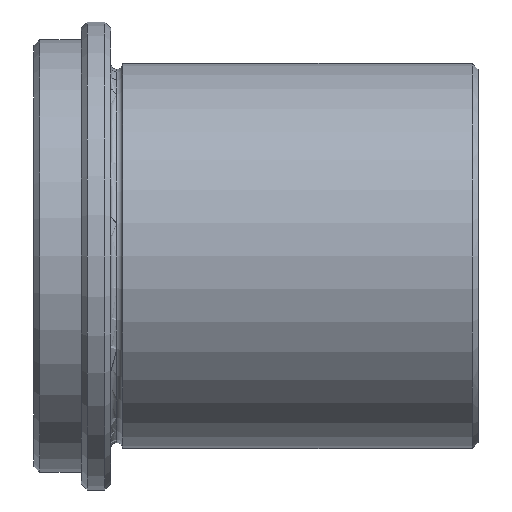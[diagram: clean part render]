
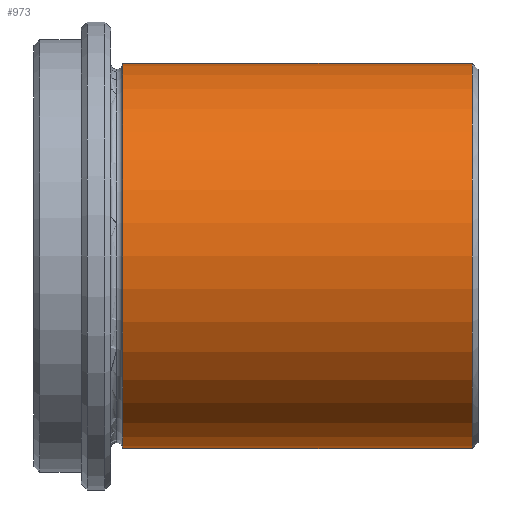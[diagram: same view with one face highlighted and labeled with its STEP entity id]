
A CAD part, left-side view. The second image highlights one B-rep face of the part: STEP entity #973.
In plain terms, the highlighted cylindrical face has radius 32.5 mm (diameter 65 mm), a partial arc.
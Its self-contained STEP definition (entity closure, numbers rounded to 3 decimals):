
#789=CARTESIAN_POINT('Vertex',(0.,60.,32.5)) ;
#796=CARTESIAN_POINT('Vertex',(0.,60.,-32.5)) ;
#822=CARTESIAN_POINT('Axis2P3D Location',(0.,60.,0.)) ;
#826=CARTESIAN_POINT('Vertex',(-32.5,60.,0.)) ;
#829=CARTESIAN_POINT('Axis2P3D Location',(0.,60.,0.)) ;
#913=CARTESIAN_POINT('Line Origine',(0.,0.,-32.5)) ;
#917=CARTESIAN_POINT('Vertex',(0.,1.,-32.5)) ;
#920=CARTESIAN_POINT('Line Origine',(0.,0.,32.5)) ;
#924=CARTESIAN_POINT('Vertex',(0.,1.,32.5)) ;
#948=CARTESIAN_POINT('Axis2P3D Location',(0.,0.,0.)) ;
#953=CARTESIAN_POINT('Axis2P3D Location',(0.,1.,0.)) ;
#957=CARTESIAN_POINT('Vertex',(-32.5,1.,0.)) ;
#960=CARTESIAN_POINT('Axis2P3D Location',(0.,1.,0.)) ;
#823=DIRECTION('Axis2P3D Direction',(0.,-1.,0.)) ;
#830=DIRECTION('Axis2P3D Direction',(0.,-1.,0.)) ;
#914=DIRECTION('Vector Direction',(0.,1.,0.)) ;
#921=DIRECTION('Vector Direction',(0.,1.,0.)) ;
#949=DIRECTION('Axis2P3D Direction',(0.,1.,0.)) ;
#950=DIRECTION('Axis2P3D XDirection',(0.,0.,-1.)) ;
#954=DIRECTION('Axis2P3D Direction',(0.,1.,0.)) ;
#961=DIRECTION('Axis2P3D Direction',(0.,1.,0.)) ;
#824=AXIS2_PLACEMENT_3D('Circle Axis2P3D',#822,#823,$) ;
#831=AXIS2_PLACEMENT_3D('Circle Axis2P3D',#829,#830,$) ;
#951=AXIS2_PLACEMENT_3D('Cylinder Axis2P3D',#948,#949,#950) ;
#955=AXIS2_PLACEMENT_3D('Circle Axis2P3D',#953,#954,$) ;
#962=AXIS2_PLACEMENT_3D('Circle Axis2P3D',#960,#961,$) ;
#966=ORIENTED_EDGE('',*,*,#926,.T.) ;
#967=ORIENTED_EDGE('',*,*,#833,.T.) ;
#968=ORIENTED_EDGE('',*,*,#828,.T.) ;
#969=ORIENTED_EDGE('',*,*,#919,.T.) ;
#970=ORIENTED_EDGE('',*,*,#959,.F.) ;
#971=ORIENTED_EDGE('',*,*,#964,.F.) ;
#915=VECTOR('Line Direction',#914,1.) ;
#922=VECTOR('Line Direction',#921,1.) ;
#973=ADVANCED_FACE('CF 439 50x75',(#972),#952,.T.) ;
#825=CIRCLE('generated circle',#824,32.5) ;
#832=CIRCLE('generated circle',#831,32.5) ;
#956=CIRCLE('generated circle',#955,32.5) ;
#963=CIRCLE('generated circle',#962,32.5) ;
#952=CYLINDRICAL_SURFACE('generated cylinder',#951,32.5) ;
#828=EDGE_CURVE('',#827,#797,#825,.T.) ;
#833=EDGE_CURVE('',#790,#827,#832,.T.) ;
#919=EDGE_CURVE('',#797,#918,#916,.F.) ;
#926=EDGE_CURVE('',#925,#790,#923,.T.) ;
#959=EDGE_CURVE('',#958,#918,#956,.F.) ;
#964=EDGE_CURVE('',#925,#958,#963,.F.) ;
#965=EDGE_LOOP('',(#966,#967,#968,#969,#970,#971)) ;
#972=FACE_OUTER_BOUND('',#965,.T.) ;
#916=LINE('Line',#913,#915) ;
#923=LINE('Line',#920,#922) ;
#790=VERTEX_POINT('',#789) ;
#797=VERTEX_POINT('',#796) ;
#827=VERTEX_POINT('',#826) ;
#918=VERTEX_POINT('',#917) ;
#925=VERTEX_POINT('',#924) ;
#958=VERTEX_POINT('',#957) ;
